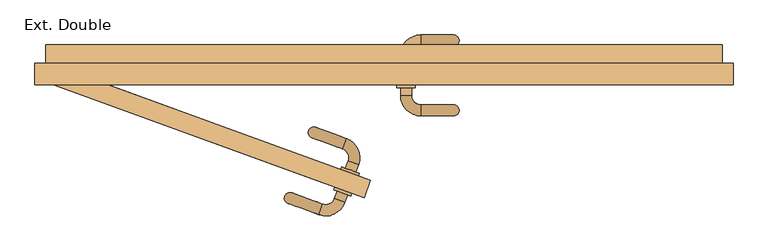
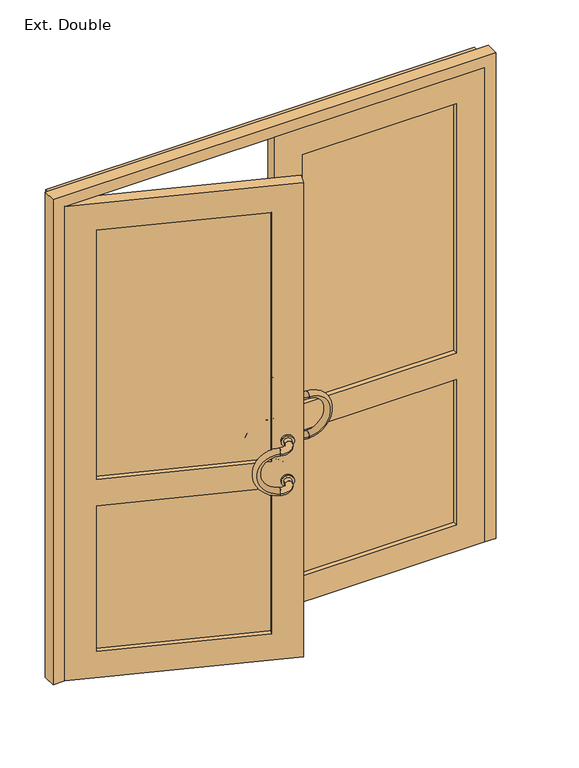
"""IFC4 building model written with IfcOpenShell, lengths in millimetres: door geometry, Ext. Double : Vitrée avec traverse - 1.80 m x 2.15 m."""

from ifc_helpers import new_model, si_unit, point, frame, origin, place, context, project, spatial, polyline, circle_curve, ellipse_curve, trimmed, outline, extrude, faceted_brep, source, transform, mapped, element, save
from ifc_brep_helpers import plane_surface, cylinder_surface, revolved_surface, advanced_brep


def ext_double_4d125d60(model_context):
    return source(origin(), model_context, "Body", "SolidModel", [
        advanced_brep(
        [(35.0, -198.0, 990.0), (65.0, -198.0, 990.0), (90.0, -253.0, 990.0), (90.0, -223.0, 990.0)],
        [
            (0, 1, circle_curve(frame((50.0, -198.0, 990.0), z_axis=(0.0, 1.0, 0.0), x_axis=(1.0, 0.0, 0.0)), 15.0)),
            (1, 0, circle_curve(frame((50.0, -198.0, 990.0), z_axis=(0.0, 1.0, 0.0), x_axis=(1.0, 0.0, 0.0)), 15.0)),
            (2, 3, circle_curve(frame((90.0, -238.0, 990.0), z_axis=(1.0, 0.0, 0.0), x_axis=(0.0, 1.0, 0.0)), 15.0)),
            (3, 2, circle_curve(frame((90.0, -238.0, 990.0), z_axis=(1.0, 0.0, 0.0), x_axis=(0.0, 1.0, 0.0)), 15.0)),
            (3, 1, circle_curve(frame((90.0, -198.0, 990.0), z_axis=(0.0, 0.0, -1.0), x_axis=(-1.0, 0.0, 0.0)), 25.0)),
            (0, 2, circle_curve(frame((90.0, -198.0, 990.0), z_axis=(0.0, 0.0, 1.0), x_axis=(-1.0, 0.0, 0.0)), 55.0)),
        ],
        [
            plane_surface(frame((90.0, -198.0, 990.0), z_axis=(0.0, 1.0, 0.0), x_axis=(-1.0, 0.0, 0.0))),
            plane_surface(frame((90.0, -198.0, 990.0), z_axis=(1.0, 0.0, 0.0), x_axis=(0.0, -1.0, 0.0))),
            revolved_surface(trimmed(ellipse_curve(frame((50.0, -198.0, 990.0), z_axis=(0.0, 1.0, 0.0), x_axis=(1.0, 0.0, 0.0)), 15.0, 15.0), [point((35.0, -198.0, 990.0))], [point((65.0, -198.0, 990.0))], True, "CARTESIAN"), (90.0, -198.0, 990.0), (0.0, 0.0, 1.0)),
            revolved_surface(trimmed(ellipse_curve(frame((50.0, -198.0, 990.0), z_axis=(0.0, 1.0, 0.0), x_axis=(1.0, 0.0, 0.0)), 15.0, 15.0), [point((65.0, -198.0, 990.0))], [point((35.0, -198.0, 990.0))], True, "CARTESIAN"), (90.0, -198.0, 990.0), (0.0, 0.0, 1.0)),
        ],
        [
            (0, [[1, 2]]),
            (1, [[3, 4]]),
            (2, [[5, -1, 6, -4]]),
            (3, [[-6, -2, -5, -3]]),
        ],
    ),
        advanced_brep(
        [(35.0, -198.0, 810.0), (65.0, -198.0, 810.0), (90.0, -253.0, 810.0), (90.0, -223.0, 810.0)],
        [
            (0, 1, circle_curve(frame((50.0, -198.0, 810.0), z_axis=(0.0, 1.0, 0.0), x_axis=(1.0, 0.0, 0.0)), 15.0)),
            (1, 0, circle_curve(frame((50.0, -198.0, 810.0), z_axis=(0.0, 1.0, 0.0), x_axis=(1.0, 0.0, 0.0)), 15.0)),
            (2, 3, circle_curve(frame((90.0, -238.0, 810.0), z_axis=(1.0, 0.0, 0.0), x_axis=(0.0, 1.0, 0.0)), 15.0)),
            (3, 2, circle_curve(frame((90.0, -238.0, 810.0), z_axis=(1.0, 0.0, 0.0), x_axis=(0.0, 1.0, 0.0)), 15.0)),
            (3, 1, circle_curve(frame((90.0, -198.0, 810.0), z_axis=(0.0, 0.0, -1.0), x_axis=(-1.0, 0.0, 0.0)), 25.0)),
            (0, 2, circle_curve(frame((90.0, -198.0, 810.0), z_axis=(0.0, 0.0, 1.0), x_axis=(-1.0, 0.0, 0.0)), 55.0)),
        ],
        [
            plane_surface(frame((90.0, -198.0, 990.0), z_axis=(0.0, 1.0, 0.0), x_axis=(-1.0, 0.0, 0.0))),
            plane_surface(frame((90.0, -198.0, 990.0), z_axis=(1.0, 0.0, 0.0), x_axis=(0.0, -1.0, 0.0))),
            revolved_surface(trimmed(ellipse_curve(frame((50.0, -198.0, 810.0), z_axis=(0.0, 1.0, 0.0), x_axis=(1.0, 0.0, 0.0)), 15.0, 15.0), [point((35.0, -198.0, 810.0))], [point((65.0, -198.0, 810.0))], True, "CARTESIAN"), (90.0, -198.0, 990.0), (0.0, 0.0, 1.0)),
            revolved_surface(trimmed(ellipse_curve(frame((50.0, -198.0, 810.0), z_axis=(0.0, 1.0, 0.0), x_axis=(1.0, 0.0, 0.0)), 15.0, 15.0), [point((65.0, -198.0, 810.0))], [point((35.0, -198.0, 810.0))], True, "CARTESIAN"), (90.0, -198.0, 990.0), (0.0, 0.0, 1.0)),
        ],
        [
            (0, [[1, 2]]),
            (1, [[3, 4]]),
            (2, [[5, -1, 6, -4]]),
            (3, [[-6, -2, -5, -3]]),
        ],
    ),
        advanced_brep(
        [(90.0, -223.0, 990.0), (90.0, -253.0, 990.0), (90.0, -223.0, 810.0), (90.0, -253.0, 810.0)],
        [
            (0, 1, circle_curve(frame((90.0, -238.0, 990.0), z_axis=(-1.0, 0.0, 0.0), x_axis=(0.0, -1.0, 0.0)), 15.0)),
            (1, 0, circle_curve(frame((90.0, -238.0, 990.0), z_axis=(-1.0, 0.0, 0.0), x_axis=(0.0, -1.0, 0.0)), 15.0)),
            (2, 3, circle_curve(frame((90.0, -238.0, 810.0), z_axis=(-1.0, 0.0, 0.0), x_axis=(0.0, -1.0, 0.0)), 15.0)),
            (3, 2, circle_curve(frame((90.0, -238.0, 810.0), z_axis=(-1.0, 0.0, 0.0), x_axis=(0.0, -1.0, 0.0)), 15.0)),
            (3, 1, circle_curve(frame((90.0, -253.0, 900.0), z_axis=(0.0, -1.0, 0.0), x_axis=(0.0, 0.0, 1.0)), 90.0)),
            (0, 2, circle_curve(frame((90.0, -223.0, 900.0), z_axis=(0.0, 1.0, 0.0), x_axis=(0.0, 0.0, 1.0)), 90.0)),
        ],
        [
            plane_surface(frame((90.0, -253.0, 900.0), z_axis=(-1.0, 0.0, 0.0), x_axis=(0.0, 0.0, 1.0))),
            plane_surface(frame((90.0, -253.0, 900.0), z_axis=(-1.0, 0.0, 0.0), x_axis=(0.0, 0.0, -1.0))),
            revolved_surface(trimmed(ellipse_curve(frame((90.0, -238.0, 990.0), z_axis=(-1.0, 0.0, 0.0), x_axis=(0.0, -1.0, 0.0)), 15.0, 15.0), [point((90.0, -223.0, 990.0))], [point((90.0, -253.0, 990.0))], True, "CARTESIAN"), (90.0, -253.0, 900.0), (0.0, 1.0, 0.0)),
            revolved_surface(trimmed(ellipse_curve(frame((90.0, -238.0, 990.0), z_axis=(-1.0, 0.0, 0.0), x_axis=(0.0, -1.0, 0.0)), 15.0, 15.0), [point((90.0, -253.0, 990.0))], [point((90.0, -223.0, 990.0))], True, "CARTESIAN"), (90.0, -253.0, 900.0), (0.0, 1.0, 0.0)),
        ],
        [
            (0, [[1, 2]]),
            (1, [[3, 4]]),
            (2, [[5, -1, 6, -4]]),
            (3, [[-6, -2, -5, -3]]),
        ],
    ),
        advanced_brep(
        [(65.0, -88.0, 990.0), (35.0, -88.0, 990.0), (90.0, -63.0, 990.0), (90.0, -33.0, 990.0)],
        [
            (0, 1, circle_curve(frame((50.0, -88.0, 990.0), z_axis=(0.0, -1.0, 0.0), x_axis=(-1.0, 0.0, 0.0)), 15.0)),
            (1, 0, circle_curve(frame((50.0, -88.0, 990.0), z_axis=(0.0, -1.0, 0.0), x_axis=(-1.0, 0.0, 0.0)), 15.0)),
            (2, 3, circle_curve(frame((90.0, -48.0, 990.0), z_axis=(1.0, 0.0, 0.0), x_axis=(0.0, 1.0, 0.0)), 15.0)),
            (3, 2, circle_curve(frame((90.0, -48.0, 990.0), z_axis=(1.0, 0.0, 0.0), x_axis=(0.0, 1.0, 0.0)), 15.0)),
            (3, 1, circle_curve(frame((90.0, -88.0, 990.0), z_axis=(0.0, 0.0, 1.0), x_axis=(-1.0, 0.0, 0.0)), 55.0)),
            (0, 2, circle_curve(frame((90.0, -88.0, 990.0), z_axis=(0.0, 0.0, -1.0), x_axis=(-1.0, 0.0, 0.0)), 25.0)),
        ],
        [
            plane_surface(frame((90.0, -88.0, 990.0), z_axis=(0.0, -1.0, 0.0), x_axis=(-1.0, 0.0, 0.0))),
            plane_surface(frame((90.0, -88.0, 990.0), z_axis=(1.0, 0.0, 0.0), x_axis=(0.0, 1.0, 0.0))),
            revolved_surface(trimmed(ellipse_curve(frame((50.0, -88.0, 990.0), z_axis=(0.0, -1.0, 0.0), x_axis=(-1.0, 0.0, 0.0)), 15.0, 15.0), [point((65.0, -88.0, 990.0))], [point((35.0, -88.0, 990.0))], True, "CARTESIAN"), (90.0, -88.0, 990.0), (0.0, 0.0, -1.0)),
            revolved_surface(trimmed(ellipse_curve(frame((50.0, -88.0, 990.0), z_axis=(0.0, -1.0, 0.0), x_axis=(-1.0, 0.0, 0.0)), 15.0, 15.0), [point((35.0, -88.0, 990.0))], [point((65.0, -88.0, 990.0))], True, "CARTESIAN"), (90.0, -88.0, 990.0), (0.0, 0.0, -1.0)),
        ],
        [
            (0, [[1, 2]]),
            (1, [[3, 4]]),
            (2, [[5, -1, 6, -4]]),
            (3, [[-6, -2, -5, -3]]),
        ],
    ),
        advanced_brep(
        [(65.0, -88.0, 810.0), (35.0, -88.0, 810.0), (90.0, -63.0, 810.0), (90.0, -33.0, 810.0)],
        [
            (0, 1, circle_curve(frame((50.0, -88.0, 810.0), z_axis=(0.0, -1.0, 0.0), x_axis=(-1.0, 0.0, 0.0)), 15.0)),
            (1, 0, circle_curve(frame((50.0, -88.0, 810.0), z_axis=(0.0, -1.0, 0.0), x_axis=(-1.0, 0.0, 0.0)), 15.0)),
            (2, 3, circle_curve(frame((90.0, -48.0, 810.0), z_axis=(1.0, 0.0, 0.0), x_axis=(0.0, 1.0, 0.0)), 15.0)),
            (3, 2, circle_curve(frame((90.0, -48.0, 810.0), z_axis=(1.0, 0.0, 0.0), x_axis=(0.0, 1.0, 0.0)), 15.0)),
            (3, 1, circle_curve(frame((90.0, -88.0, 810.0), z_axis=(0.0, 0.0, 1.0), x_axis=(-1.0, 0.0, 0.0)), 55.0)),
            (0, 2, circle_curve(frame((90.0, -88.0, 810.0), z_axis=(0.0, 0.0, -1.0), x_axis=(-1.0, 0.0, 0.0)), 25.0)),
        ],
        [
            plane_surface(frame((90.0, -88.0, 990.0), z_axis=(0.0, -1.0, 0.0), x_axis=(-1.0, 0.0, 0.0))),
            plane_surface(frame((90.0, -88.0, 990.0), z_axis=(1.0, 0.0, 0.0), x_axis=(0.0, 1.0, 0.0))),
            revolved_surface(trimmed(ellipse_curve(frame((50.0, -88.0, 810.0), z_axis=(0.0, -1.0, 0.0), x_axis=(-1.0, 0.0, 0.0)), 15.0, 15.0), [point((65.0, -88.0, 810.0))], [point((35.0, -88.0, 810.0))], True, "CARTESIAN"), (90.0, -88.0, 990.0), (0.0, 0.0, -1.0)),
            revolved_surface(trimmed(ellipse_curve(frame((50.0, -88.0, 810.0), z_axis=(0.0, -1.0, 0.0), x_axis=(-1.0, 0.0, 0.0)), 15.0, 15.0), [point((35.0, -88.0, 810.0))], [point((65.0, -88.0, 810.0))], True, "CARTESIAN"), (90.0, -88.0, 990.0), (0.0, 0.0, -1.0)),
        ],
        [
            (0, [[1, 2]]),
            (1, [[3, 4]]),
            (2, [[5, -1, 6, -4]]),
            (3, [[-6, -2, -5, -3]]),
        ],
    ),
        advanced_brep(
        [(90.0, -33.0, 990.0), (90.0, -63.0, 990.0), (90.0, -33.0, 810.0), (90.0, -63.0, 810.0)],
        [
            (0, 1, circle_curve(frame((90.0, -48.0, 990.0), z_axis=(-1.0, 0.0, 0.0), x_axis=(0.0, -1.0, 0.0)), 15.0)),
            (1, 0, circle_curve(frame((90.0, -48.0, 990.0), z_axis=(-1.0, 0.0, 0.0), x_axis=(0.0, -1.0, 0.0)), 15.0)),
            (2, 3, circle_curve(frame((90.0, -48.0, 810.0), z_axis=(-1.0, 0.0, 0.0), x_axis=(0.0, -1.0, 0.0)), 15.0)),
            (3, 2, circle_curve(frame((90.0, -48.0, 810.0), z_axis=(-1.0, 0.0, 0.0), x_axis=(0.0, -1.0, 0.0)), 15.0)),
            (3, 1, circle_curve(frame((90.0, -63.0, 900.0), z_axis=(0.0, -1.0, 0.0), x_axis=(0.0, 0.0, 1.0)), 90.0)),
            (0, 2, circle_curve(frame((90.0, -33.0, 900.0), z_axis=(0.0, 1.0, 0.0), x_axis=(0.0, 0.0, 1.0)), 90.0)),
        ],
        [
            plane_surface(frame((90.0, -48.0, 900.0), z_axis=(-1.0, 0.0, 0.0), x_axis=(0.0, 0.0, 1.0))),
            plane_surface(frame((90.0, -48.0, 900.0), z_axis=(-1.0, 0.0, 0.0), x_axis=(0.0, 0.0, -1.0))),
            revolved_surface(trimmed(ellipse_curve(frame((90.0, -48.0, 990.0), z_axis=(-1.0, 0.0, 0.0), x_axis=(0.0, -1.0, 0.0)), 15.0, 15.0), [point((90.0, -33.0, 990.0))], [point((90.0, -63.0, 990.0))], True, "CARTESIAN"), (90.0, -48.0, 900.0), (0.0, 1.0, 0.0)),
            revolved_surface(trimmed(ellipse_curve(frame((90.0, -48.0, 990.0), z_axis=(-1.0, 0.0, 0.0), x_axis=(0.0, -1.0, 0.0)), 15.0, 15.0), [point((90.0, -63.0, 990.0))], [point((90.0, -33.0, 990.0))], True, "CARTESIAN"), (90.0, -48.0, 900.0), (0.0, 1.0, 0.0)),
        ],
        [
            (0, [[1, 2]]),
            (1, [[3, 4]]),
            (2, [[5, -1, 6, -4]]),
            (3, [[-6, -2, -5, -3]]),
        ],
    ),
        advanced_brep(
        [(25.0, -176.0, 990.0), (75.0, -176.0, 990.0), (65.0, -176.0, 990.0), (35.0, -176.0, 990.0), (25.0, -168.0, 990.0), (75.0, -168.0, 990.0), (35.0, -198.0, 990.0), (65.0, -198.0, 990.0)],
        [
            (0, 1, circle_curve(frame((50.0, -176.0, 990.0), z_axis=(0.0, -1.0, 0.0), x_axis=(1.0, 0.0, 0.0)), 25.0)),
            (1, 0, circle_curve(frame((50.0, -176.0, 990.0), z_axis=(0.0, -1.0, 0.0), x_axis=(1.0, 0.0, 0.0)), 25.0)),
            (2, 3, circle_curve(frame((50.0, -176.0, 990.0), z_axis=(0.0, 1.0, 0.0), x_axis=(1.0, 0.0, 0.0)), 15.0)),
            (3, 2, circle_curve(frame((50.0, -176.0, 990.0), z_axis=(0.0, 1.0, 0.0), x_axis=(1.0, 0.0, 0.0)), 15.0)),
            (4, 5, circle_curve(frame((50.0, -168.0, 990.0), z_axis=(0.0, 1.0, 0.0), x_axis=(1.0, 0.0, 0.0)), 25.0)),
            (5, 4, circle_curve(frame((50.0, -168.0, 990.0), z_axis=(0.0, 1.0, 0.0), x_axis=(1.0, 0.0, 0.0)), 25.0)),
            (0, 4),
            (5, 1),
            (6, 7, circle_curve(frame((50.0, -198.0, 990.0), z_axis=(0.0, -1.0, 0.0), x_axis=(1.0, 0.0, 0.0)), 15.0)),
            (7, 6, circle_curve(frame((50.0, -198.0, 990.0), z_axis=(0.0, -1.0, 0.0), x_axis=(1.0, 0.0, 0.0)), 15.0)),
            (6, 3),
            (2, 7),
        ],
        [
            plane_surface(frame((75.0, -176.0, 990.0), z_axis=(0.0, -1.0, 0.0), x_axis=(0.0, 0.0, 1.0))),
            plane_surface(frame((75.0, -168.0, 990.0), z_axis=(0.0, 1.0, 0.0), x_axis=(0.0, 0.0, -1.0))),
            cylinder_surface(frame((50.0, -168.0, 990.0), z_axis=(0.0, -1.0, 0.0), x_axis=(1.0, 0.0, 0.0)), 25.0),
            plane_surface(frame((65.0, -198.0, 990.0), z_axis=(0.0, -1.0, 0.0), x_axis=(0.0, 0.0, 1.0))),
            cylinder_surface(frame((50.0, -168.0, 990.0), z_axis=(0.0, -1.0, 0.0), x_axis=(1.0, 0.0, 0.0)), 15.0),
        ],
        [
            (0, [[1, 2], [3, 4]]),
            (1, [[5, 6]]),
            (2, [[-1, 7, -6, 8]]),
            (2, [[-2, -8, -5, -7]]),
            (3, [[9, 10]]),
            (4, [[-9, 11, -3, 12]]),
            (4, [[-10, -12, -4, -11]]),
        ],
    ),
        advanced_brep(
        [(25.0, -176.0, 810.0), (75.0, -176.0, 810.0), (65.0, -176.0, 810.0), (35.0, -176.0, 810.0), (25.0, -168.0, 810.0), (75.0, -168.0, 810.0), (35.0, -198.0, 810.0), (65.0, -198.0, 810.0)],
        [
            (0, 1, circle_curve(frame((50.0, -176.0, 810.0), z_axis=(0.0, -1.0, 0.0), x_axis=(1.0, 0.0, 0.0)), 25.0)),
            (1, 0, circle_curve(frame((50.0, -176.0, 810.0), z_axis=(0.0, -1.0, 0.0), x_axis=(1.0, 0.0, 0.0)), 25.0)),
            (2, 3, circle_curve(frame((50.0, -176.0, 810.0), z_axis=(0.0, 1.0, 0.0), x_axis=(1.0, 0.0, 0.0)), 15.0)),
            (3, 2, circle_curve(frame((50.0, -176.0, 810.0), z_axis=(0.0, 1.0, 0.0), x_axis=(1.0, 0.0, 0.0)), 15.0)),
            (4, 5, circle_curve(frame((50.0, -168.0, 810.0), z_axis=(0.0, 1.0, 0.0), x_axis=(1.0, 0.0, 0.0)), 25.0)),
            (5, 4, circle_curve(frame((50.0, -168.0, 810.0), z_axis=(0.0, 1.0, 0.0), x_axis=(1.0, 0.0, 0.0)), 25.0)),
            (0, 4),
            (5, 1),
            (6, 7, circle_curve(frame((50.0, -198.0, 810.0), z_axis=(0.0, -1.0, 0.0), x_axis=(1.0, 0.0, 0.0)), 15.0)),
            (7, 6, circle_curve(frame((50.0, -198.0, 810.0), z_axis=(0.0, -1.0, 0.0), x_axis=(1.0, 0.0, 0.0)), 15.0)),
            (6, 3),
            (2, 7),
        ],
        [
            plane_surface(frame((75.0, -176.0, 990.0), z_axis=(0.0, -1.0, 0.0), x_axis=(0.0, 0.0, 1.0))),
            plane_surface(frame((75.0, -168.0, 990.0), z_axis=(0.0, 1.0, 0.0), x_axis=(0.0, 0.0, -1.0))),
            cylinder_surface(frame((50.0, -168.0, 810.0), z_axis=(0.0, -1.0, 0.0), x_axis=(1.0, 0.0, 0.0)), 25.0),
            plane_surface(frame((65.0, -198.0, 990.0), z_axis=(0.0, -1.0, 0.0), x_axis=(0.0, 0.0, 1.0))),
            cylinder_surface(frame((50.0, -168.0, 810.0), z_axis=(0.0, -1.0, 0.0), x_axis=(1.0, 0.0, 0.0)), 15.0),
        ],
        [
            (0, [[1, 2], [3, 4]]),
            (1, [[5, 6]]),
            (2, [[-1, 7, -6, 8]]),
            (2, [[-2, -8, -5, -7]]),
            (3, [[9, 10]]),
            (4, [[-9, 11, -3, 12]]),
            (4, [[-10, -12, -4, -11]]),
        ],
    ),
        advanced_brep(
        [(25.0, -118.0, 810.0), (75.0, -118.0, 810.0), (25.0, -110.0, 810.0), (75.0, -110.0, 810.0), (35.0, -110.0, 810.0), (65.0, -110.0, 810.0), (35.0, -88.0, 810.0), (65.0, -88.0, 810.0)],
        [
            (0, 1, circle_curve(frame((50.0, -118.0, 810.0), z_axis=(0.0, -1.0, 0.0), x_axis=(1.0, 0.0, 0.0)), 25.0)),
            (1, 0, circle_curve(frame((50.0, -118.0, 810.0), z_axis=(0.0, -1.0, 0.0), x_axis=(1.0, 0.0, 0.0)), 25.0)),
            (2, 3, circle_curve(frame((50.0, -110.0, 810.0), z_axis=(0.0, 1.0, 0.0), x_axis=(1.0, 0.0, 0.0)), 25.0)),
            (3, 2, circle_curve(frame((50.0, -110.0, 810.0), z_axis=(0.0, 1.0, 0.0), x_axis=(1.0, 0.0, 0.0)), 25.0)),
            (4, 5, circle_curve(frame((50.0, -110.0, 810.0), z_axis=(0.0, -1.0, 0.0), x_axis=(1.0, 0.0, 0.0)), 15.0)),
            (5, 4, circle_curve(frame((50.0, -110.0, 810.0), z_axis=(0.0, -1.0, 0.0), x_axis=(1.0, 0.0, 0.0)), 15.0)),
            (0, 2),
            (3, 1),
            (6, 7, circle_curve(frame((50.0, -88.0, 810.0), z_axis=(0.0, 1.0, 0.0), x_axis=(1.0, 0.0, 0.0)), 15.0)),
            (7, 6, circle_curve(frame((50.0, -88.0, 810.0), z_axis=(0.0, 1.0, 0.0), x_axis=(1.0, 0.0, 0.0)), 15.0)),
            (7, 5),
            (4, 6),
        ],
        [
            plane_surface(frame((75.0, -118.0, 990.0), z_axis=(0.0, -1.0, 0.0), x_axis=(0.0, 0.0, 1.0))),
            plane_surface(frame((75.0, -110.0, 990.0), z_axis=(0.0, 1.0, 0.0), x_axis=(0.0, 0.0, -1.0))),
            cylinder_surface(frame((50.0, -118.0, 810.0), z_axis=(0.0, -1.0, 0.0), x_axis=(1.0, 0.0, 0.0)), 25.0),
            plane_surface(frame((65.0, -88.0, 990.0), z_axis=(0.0, 1.0, 0.0), x_axis=(0.0, 0.0, -1.0))),
            cylinder_surface(frame((50.0, -118.0, 810.0), z_axis=(0.0, -1.0, 0.0), x_axis=(1.0, 0.0, 0.0)), 15.0),
        ],
        [
            (0, [[1, 2]]),
            (1, [[3, 4], [5, 6]]),
            (2, [[-1, 7, -4, 8]]),
            (2, [[-2, -8, -3, -7]]),
            (3, [[9, 10]]),
            (4, [[-10, 11, -5, 12]]),
            (4, [[-9, -12, -6, -11]]),
        ],
    ),
        advanced_brep(
        [(25.0, -118.0, 990.0), (75.0, -118.0, 990.0), (25.0, -110.0, 990.0), (75.0, -110.0, 990.0), (35.0, -110.0, 990.0), (65.0, -110.0, 990.0), (35.0, -88.0, 990.0), (65.0, -88.0, 990.0)],
        [
            (0, 1, circle_curve(frame((50.0, -118.0, 990.0), z_axis=(0.0, -1.0, 0.0), x_axis=(1.0, 0.0, 0.0)), 25.0)),
            (1, 0, circle_curve(frame((50.0, -118.0, 990.0), z_axis=(0.0, -1.0, 0.0), x_axis=(1.0, 0.0, 0.0)), 25.0)),
            (2, 3, circle_curve(frame((50.0, -110.0, 990.0), z_axis=(0.0, 1.0, 0.0), x_axis=(1.0, 0.0, 0.0)), 25.0)),
            (3, 2, circle_curve(frame((50.0, -110.0, 990.0), z_axis=(0.0, 1.0, 0.0), x_axis=(1.0, 0.0, 0.0)), 25.0)),
            (4, 5, circle_curve(frame((50.0, -110.0, 990.0), z_axis=(0.0, -1.0, 0.0), x_axis=(1.0, 0.0, 0.0)), 15.0)),
            (5, 4, circle_curve(frame((50.0, -110.0, 990.0), z_axis=(0.0, -1.0, 0.0), x_axis=(1.0, 0.0, 0.0)), 15.0)),
            (0, 2),
            (3, 1),
            (6, 7, circle_curve(frame((50.0, -88.0, 990.0), z_axis=(0.0, 1.0, 0.0), x_axis=(1.0, 0.0, 0.0)), 15.0)),
            (7, 6, circle_curve(frame((50.0, -88.0, 990.0), z_axis=(0.0, 1.0, 0.0), x_axis=(1.0, 0.0, 0.0)), 15.0)),
            (7, 5),
            (4, 6),
        ],
        [
            plane_surface(frame((75.0, -118.0, 990.0), z_axis=(0.0, -1.0, 0.0), x_axis=(0.0, 0.0, 1.0))),
            plane_surface(frame((75.0, -110.0, 990.0), z_axis=(0.0, 1.0, 0.0), x_axis=(0.0, 0.0, -1.0))),
            cylinder_surface(frame((50.0, -110.0, 990.0), z_axis=(0.0, -1.0, 0.0), x_axis=(1.0, 0.0, 0.0)), 25.0),
            plane_surface(frame((65.0, -88.0, 990.0), z_axis=(0.0, 1.0, 0.0), x_axis=(0.0, 0.0, -1.0))),
            cylinder_surface(frame((50.0, -88.0, 990.0), z_axis=(0.0, -1.0, 0.0), x_axis=(1.0, 0.0, 0.0)), 15.0),
        ],
        [
            (0, [[1, 2]]),
            (1, [[3, 4], [5, 6]]),
            (2, [[-1, 7, -4, 8]]),
            (2, [[-2, -8, -3, -7]]),
            (3, [[9, 10]]),
            (4, [[-10, 11, -5, 12]]),
            (4, [[-9, -12, -6, -11]]),
        ],
    ),
        extrude(outline(polyline([(110.0, -138.0), (770.0, -138.0), (770.0, -148.0), (110.0, -148.0), (110.0, -138.0)])), frame((0.0, 0.0, 900.0), z_axis=(0.0, 0.0, 1.0), x_axis=(1.0, 0.0, 0.0)), (0.0, 0.0, 1.0), 1130.0),
        extrude(outline(polyline([(110.0, -138.0), (770.0, -138.0), (770.0, -148.0), (110.0, -148.0), (110.0, -138.0)])), frame((0.0, 0.0, 120.0), z_axis=(0.0, 0.0, 1.0), x_axis=(1.0, 0.0, 0.0)), (0.0, 0.0, 1.0), 660.0),
        extrude(outline(polyline([(2150.0, -10.0), (0.0, -10.0), (0.0, 890.0), (2150.0, 890.0), (2150.0, -10.0)]), holes=[polyline([(2030.0, 770.0), (900.0, 770.0), (900.0, 110.0), (2030.0, 110.0), (2030.0, 770.0)]), polyline([(780.0, 110.0), (780.0, 770.0), (120.0, 770.0), (120.0, 110.0), (780.0, 110.0)])]), frame((0.0, -168.0, 0.0), z_axis=(0.0, 1.0, 0.0), x_axis=(0.0, 0.0, 1.0)), (0.0, 0.0, 1.0), 50.0),
        advanced_brep(
        [(-116.8234135, -488.6180012, 990.0), (-145.0141922, -478.3573969, 990.0), (-187.3176156, -521.4899874, 990.0), (-177.0570113, -493.2992088, 990.0)],
        [
            (0, 1, circle_curve(frame((-130.9188028, -483.487699, 990.0), z_axis=(0.34202014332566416, 0.9396926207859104, 0.0), x_axis=(-0.9396926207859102, 0.3420201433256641, 0.0)), 15.0)),
            (1, 0, circle_curve(frame((-130.9188028, -483.487699, 990.0), z_axis=(0.34202014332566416, 0.9396926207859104, 0.0), x_axis=(-0.9396926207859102, 0.3420201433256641, 0.0)), 15.0)),
            (2, 3, circle_curve(frame((-182.1873134, -507.3945981, 990.0), z_axis=(-0.9396926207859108, 0.3420201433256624, 0.0), x_axis=(0.34202014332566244, 0.939692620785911, 0.0)), 15.0)),
            (3, 2, circle_curve(frame((-182.1873134, -507.3945981, 990.0), z_axis=(-0.9396926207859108, 0.3420201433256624, 0.0), x_axis=(0.34202014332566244, 0.939692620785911, 0.0)), 15.0)),
            (2, 0, circle_curve(frame((-168.5065077, -469.8068933, 990.0), z_axis=(0.0, 0.0, 1.0), x_axis=(0.939692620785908, -0.34202014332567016, 0.0)), 55.0)),
            (1, 3, circle_curve(frame((-168.5065077, -469.8068933, 990.0), z_axis=(0.0, 0.0, -1.0), x_axis=(0.939692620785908, -0.34202014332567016, 0.0)), 25.0)),
        ],
        [
            plane_surface(frame((-168.5065077, -469.8068933, 990.0), z_axis=(0.34202014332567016, 0.939692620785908, 0.0), x_axis=(0.939692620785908, -0.34202014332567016, 0.0))),
            plane_surface(frame((-168.5065077, -469.8068933, 990.0), z_axis=(-0.9396926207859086, 0.3420201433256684, 0.0), x_axis=(-0.3420201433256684, -0.9396926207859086, 0.0))),
            revolved_surface(trimmed(ellipse_curve(frame((-130.9188028, -483.487699, 990.0), z_axis=(-0.34202014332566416, -0.9396926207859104, 0.0), x_axis=(-0.9396926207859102, 0.3420201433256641, 0.0)), 15.0, 15.0), [point((-116.8234135, -488.6180012, 990.0))], [point((-145.0141922, -478.3573969, 990.0))], True, "CARTESIAN"), (-168.5065077, -469.8068933, 990.0), (0.0, 0.0, 1.0000000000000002)),
            revolved_surface(trimmed(ellipse_curve(frame((-130.9188028, -483.487699, 990.0), z_axis=(-0.34202014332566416, -0.9396926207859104, 0.0), x_axis=(-0.9396926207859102, 0.3420201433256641, 0.0)), 15.0, 15.0), [point((-145.0141922, -478.3573969, 990.0))], [point((-116.8234135, -488.6180012, 990.0))], True, "CARTESIAN"), (-168.5065077, -469.8068933, 990.0), (0.0, 0.0, 1.0000000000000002)),
        ],
        [
            (0, [[1, 2]]),
            (1, [[3, 4]]),
            (2, [[-3, 5, -2, 6]]),
            (3, [[-4, -6, -1, -5]]),
        ],
    ),
        advanced_brep(
        [(-116.8234135, -488.6180012, 810.0), (-145.0141922, -478.3573969, 810.0), (-187.3176156, -521.4899874, 810.0), (-177.0570113, -493.2992088, 810.0)],
        [
            (0, 1, circle_curve(frame((-130.9188028, -483.487699, 810.0), z_axis=(0.34202014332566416, 0.9396926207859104, 0.0), x_axis=(-0.9396926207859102, 0.3420201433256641, 0.0)), 15.0)),
            (1, 0, circle_curve(frame((-130.9188028, -483.487699, 810.0), z_axis=(0.34202014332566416, 0.9396926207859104, 0.0), x_axis=(-0.9396926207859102, 0.3420201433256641, 0.0)), 15.0)),
            (2, 3, circle_curve(frame((-182.1873134, -507.3945981, 810.0), z_axis=(-0.9396926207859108, 0.3420201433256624, 0.0), x_axis=(0.34202014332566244, 0.939692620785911, 0.0)), 15.0)),
            (3, 2, circle_curve(frame((-182.1873134, -507.3945981, 810.0), z_axis=(-0.9396926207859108, 0.3420201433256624, 0.0), x_axis=(0.34202014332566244, 0.939692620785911, 0.0)), 15.0)),
            (2, 0, circle_curve(frame((-168.5065077, -469.8068933, 810.0), z_axis=(0.0, 0.0, 1.0), x_axis=(0.939692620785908, -0.34202014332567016, 0.0)), 55.0)),
            (1, 3, circle_curve(frame((-168.5065077, -469.8068933, 810.0), z_axis=(0.0, 0.0, -1.0), x_axis=(0.939692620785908, -0.34202014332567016, 0.0)), 25.0)),
        ],
        [
            plane_surface(frame((-168.5065077, -469.8068933, 990.0), z_axis=(0.34202014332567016, 0.939692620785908, 0.0), x_axis=(0.939692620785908, -0.34202014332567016, 0.0))),
            plane_surface(frame((-168.5065077, -469.8068933, 990.0), z_axis=(-0.9396926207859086, 0.3420201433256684, 0.0), x_axis=(-0.3420201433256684, -0.9396926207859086, 0.0))),
            revolved_surface(trimmed(ellipse_curve(frame((-130.9188028, -483.487699, 810.0), z_axis=(-0.34202014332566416, -0.9396926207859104, 0.0), x_axis=(-0.9396926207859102, 0.3420201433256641, 0.0)), 15.0, 15.0), [point((-116.8234135, -488.6180012, 810.0))], [point((-145.0141922, -478.3573969, 810.0))], True, "CARTESIAN"), (-168.5065077, -469.8068933, 990.0), (0.0, 0.0, 1.0000000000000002)),
            revolved_surface(trimmed(ellipse_curve(frame((-130.9188028, -483.487699, 810.0), z_axis=(-0.34202014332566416, -0.9396926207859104, 0.0), x_axis=(-0.9396926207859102, 0.3420201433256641, 0.0)), 15.0, 15.0), [point((-145.0141922, -478.3573969, 810.0))], [point((-116.8234135, -488.6180012, 810.0))], True, "CARTESIAN"), (-168.5065077, -469.8068933, 990.0), (0.0, 0.0, 1.0000000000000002)),
        ],
        [
            (0, [[1, 2]]),
            (1, [[3, 4]]),
            (2, [[-3, 5, -2, 6]]),
            (3, [[-4, -6, -1, -5]]),
        ],
    ),
        advanced_brep(
        [(-177.0570113, -493.2992088, 990.0), (-187.3176156, -521.4899874, 990.0), (-177.0570113, -493.2992088, 810.0), (-187.3176156, -521.4899874, 810.0)],
        [
            (0, 1, circle_curve(frame((-182.1873134, -507.3945981, 990.0), z_axis=(0.9396926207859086, -0.34202014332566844, 0.0), x_axis=(-0.3420201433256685, -0.9396926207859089, 0.0)), 15.0)),
            (1, 0, circle_curve(frame((-182.1873134, -507.3945981, 990.0), z_axis=(0.9396926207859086, -0.34202014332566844, 0.0), x_axis=(-0.3420201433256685, -0.9396926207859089, 0.0)), 15.0)),
            (2, 3, circle_curve(frame((-182.1873134, -507.3945981, 810.0), z_axis=(0.9396926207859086, -0.34202014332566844, 0.0), x_axis=(-0.3420201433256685, -0.9396926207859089, 0.0)), 15.0)),
            (3, 2, circle_curve(frame((-182.1873134, -507.3945981, 810.0), z_axis=(0.9396926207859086, -0.34202014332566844, 0.0), x_axis=(-0.3420201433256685, -0.9396926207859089, 0.0)), 15.0)),
            (2, 0, circle_curve(frame((-177.0570113, -493.2992088, 900.0), z_axis=(0.34202014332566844, 0.9396926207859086, 0.0), x_axis=(0.0, 0.0, 1.0000000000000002)), 90.0)),
            (1, 3, circle_curve(frame((-187.3176156, -521.4899874, 900.0), z_axis=(-0.34202014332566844, -0.9396926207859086, 0.0), x_axis=(0.0, 0.0, 1.0000000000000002)), 90.0)),
        ],
        [
            plane_surface(frame((-187.3176156, -521.4899874, 900.0), z_axis=(0.9396926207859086, -0.34202014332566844, 0.0), x_axis=(0.0, 0.0, 1.0))),
            plane_surface(frame((-187.3176156, -521.4899874, 900.0), z_axis=(0.9396926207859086, -0.34202014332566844, 0.0), x_axis=(0.0, 0.0, -1.0))),
            revolved_surface(trimmed(ellipse_curve(frame((-182.1873134, -507.3945981, 990.0), z_axis=(-0.9396926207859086, 0.34202014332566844, 0.0), x_axis=(-0.3420201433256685, -0.9396926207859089, 0.0)), 15.0, 15.0), [point((-177.0570113, -493.2992088, 990.0))], [point((-187.3176156, -521.4899874, 990.0))], True, "CARTESIAN"), (-187.3176156, -521.4899874, 900.0), (0.3420201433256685, 0.9396926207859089, 0.0)),
            revolved_surface(trimmed(ellipse_curve(frame((-182.1873134, -507.3945981, 990.0), z_axis=(-0.9396926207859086, 0.34202014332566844, 0.0), x_axis=(-0.3420201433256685, -0.9396926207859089, 0.0)), 15.0, 15.0), [point((-187.3176156, -521.4899874, 990.0))], [point((-177.0570113, -493.2992088, 990.0))], True, "CARTESIAN"), (-187.3176156, -521.4899874, 900.0), (0.3420201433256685, 0.9396926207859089, 0.0)),
        ],
        [
            (0, [[1, 2]]),
            (1, [[3, 4]]),
            (2, [[-3, 5, -2, 6]]),
            (3, [[-4, -6, -1, -5]]),
        ],
    ),
        advanced_brep(
        [(-107.3919764, -374.9912086, 990.0), (-79.2011978, -385.2518129, 990.0), (-122.3337883, -342.9483895, 990.0), (-112.073184, -314.7576109, 990.0)],
        [
            (0, 1, circle_curve(frame((-93.2965871, -380.1215107, 990.0), z_axis=(-0.3420201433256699, -0.9396926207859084, 0.0), x_axis=(0.9396926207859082, -0.3420201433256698, 0.0)), 15.0)),
            (1, 0, circle_curve(frame((-93.2965871, -380.1215107, 990.0), z_axis=(-0.3420201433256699, -0.9396926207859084, 0.0), x_axis=(0.9396926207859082, -0.3420201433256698, 0.0)), 15.0)),
            (2, 3, circle_curve(frame((-117.2034862, -328.8530002, 990.0), z_axis=(-0.9396926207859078, 0.34202014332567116, 0.0), x_axis=(0.3420201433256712, 0.939692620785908, 0.0)), 15.0)),
            (3, 2, circle_curve(frame((-117.2034862, -328.8530002, 990.0), z_axis=(-0.9396926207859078, 0.34202014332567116, 0.0), x_axis=(0.3420201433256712, 0.939692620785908, 0.0)), 15.0)),
            (2, 0, circle_curve(frame((-130.8842919, -366.440705, 990.0), z_axis=(0.0, 0.0, -1.0), x_axis=(0.9396926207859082, -0.34202014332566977, 0.0)), 25.0)),
            (1, 3, circle_curve(frame((-130.8842919, -366.440705, 990.0), z_axis=(0.0, 0.0, 1.0), x_axis=(0.9396926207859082, -0.34202014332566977, 0.0)), 55.0)),
        ],
        [
            plane_surface(frame((-130.8842919, -366.440705, 990.0), z_axis=(-0.34202014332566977, -0.9396926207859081, 0.0), x_axis=(0.9396926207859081, -0.34202014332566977, 0.0))),
            plane_surface(frame((-130.8842919, -366.440705, 990.0), z_axis=(-0.9396926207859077, 0.34202014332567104, 0.0), x_axis=(0.34202014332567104, 0.9396926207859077, 0.0))),
            revolved_surface(trimmed(ellipse_curve(frame((-93.2965871, -380.1215107, 990.0), z_axis=(0.3420201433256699, 0.9396926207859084, 0.0), x_axis=(0.9396926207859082, -0.3420201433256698, 0.0)), 15.0, 15.0), [point((-107.3919764, -374.9912086, 990.0))], [point((-79.2011978, -385.2518129, 990.0))], True, "CARTESIAN"), (-130.8842919, -366.440705, 990.0), (0.0, 0.0, -1.0000000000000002)),
            revolved_surface(trimmed(ellipse_curve(frame((-93.2965871, -380.1215107, 990.0), z_axis=(0.3420201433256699, 0.9396926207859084, 0.0), x_axis=(0.9396926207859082, -0.3420201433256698, 0.0)), 15.0, 15.0), [point((-79.2011978, -385.2518129, 990.0))], [point((-107.3919764, -374.9912086, 990.0))], True, "CARTESIAN"), (-130.8842919, -366.440705, 990.0), (0.0, 0.0, -1.0000000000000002)),
        ],
        [
            (0, [[1, 2]]),
            (1, [[3, 4]]),
            (2, [[-3, 5, -2, 6]]),
            (3, [[-4, -6, -1, -5]]),
        ],
    ),
        advanced_brep(
        [(-107.3919764, -374.9912086, 810.0), (-79.2011978, -385.2518129, 810.0), (-122.3337883, -342.9483895, 810.0), (-112.073184, -314.7576109, 810.0)],
        [
            (0, 1, circle_curve(frame((-93.2965871, -380.1215107, 810.0), z_axis=(-0.3420201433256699, -0.9396926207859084, 0.0), x_axis=(0.9396926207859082, -0.3420201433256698, 0.0)), 15.0)),
            (1, 0, circle_curve(frame((-93.2965871, -380.1215107, 810.0), z_axis=(-0.3420201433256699, -0.9396926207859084, 0.0), x_axis=(0.9396926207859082, -0.3420201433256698, 0.0)), 15.0)),
            (2, 3, circle_curve(frame((-117.2034862, -328.8530002, 810.0), z_axis=(-0.9396926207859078, 0.34202014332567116, 0.0), x_axis=(0.3420201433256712, 0.939692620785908, 0.0)), 15.0)),
            (3, 2, circle_curve(frame((-117.2034862, -328.8530002, 810.0), z_axis=(-0.9396926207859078, 0.34202014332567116, 0.0), x_axis=(0.3420201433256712, 0.939692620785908, 0.0)), 15.0)),
            (2, 0, circle_curve(frame((-130.8842919, -366.440705, 810.0), z_axis=(0.0, 0.0, -1.0), x_axis=(0.9396926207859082, -0.34202014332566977, 0.0)), 25.0)),
            (1, 3, circle_curve(frame((-130.8842919, -366.440705, 810.0), z_axis=(0.0, 0.0, 1.0), x_axis=(0.9396926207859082, -0.34202014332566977, 0.0)), 55.0)),
        ],
        [
            plane_surface(frame((-130.8842919, -366.440705, 990.0), z_axis=(-0.34202014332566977, -0.9396926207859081, 0.0), x_axis=(0.9396926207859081, -0.34202014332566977, 0.0))),
            plane_surface(frame((-130.8842919, -366.440705, 990.0), z_axis=(-0.9396926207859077, 0.34202014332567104, 0.0), x_axis=(0.34202014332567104, 0.9396926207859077, 0.0))),
            revolved_surface(trimmed(ellipse_curve(frame((-93.2965871, -380.1215107, 810.0), z_axis=(0.3420201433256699, 0.9396926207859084, 0.0), x_axis=(0.9396926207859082, -0.3420201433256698, 0.0)), 15.0, 15.0), [point((-107.3919764, -374.9912086, 810.0))], [point((-79.2011978, -385.2518129, 810.0))], True, "CARTESIAN"), (-130.8842919, -366.440705, 990.0), (0.0, 0.0, -1.0000000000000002)),
            revolved_surface(trimmed(ellipse_curve(frame((-93.2965871, -380.1215107, 810.0), z_axis=(0.3420201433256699, 0.9396926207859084, 0.0), x_axis=(0.9396926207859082, -0.3420201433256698, 0.0)), 15.0, 15.0), [point((-79.2011978, -385.2518129, 810.0))], [point((-107.3919764, -374.9912086, 810.0))], True, "CARTESIAN"), (-130.8842919, -366.440705, 990.0), (0.0, 0.0, -1.0000000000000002)),
        ],
        [
            (0, [[1, 2]]),
            (1, [[3, 4]]),
            (2, [[-3, 5, -2, 6]]),
            (3, [[-4, -6, -1, -5]]),
        ],
    ),
        advanced_brep(
        [(-112.073184, -314.7576109, 990.0), (-122.3337883, -342.9483895, 990.0), (-112.073184, -314.7576109, 810.0), (-122.3337883, -342.9483895, 810.0)],
        [
            (0, 1, circle_curve(frame((-117.2034862, -328.8530002, 990.0), z_axis=(0.9396926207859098, -0.3420201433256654, 0.0), x_axis=(-0.34202014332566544, -0.93969262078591, 0.0)), 15.0)),
            (1, 0, circle_curve(frame((-117.2034862, -328.8530002, 990.0), z_axis=(0.9396926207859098, -0.3420201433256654, 0.0), x_axis=(-0.34202014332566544, -0.93969262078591, 0.0)), 15.0)),
            (2, 3, circle_curve(frame((-117.2034862, -328.8530002, 810.0), z_axis=(0.9396926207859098, -0.3420201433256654, 0.0), x_axis=(-0.34202014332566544, -0.93969262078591, 0.0)), 15.0)),
            (3, 2, circle_curve(frame((-117.2034862, -328.8530002, 810.0), z_axis=(0.9396926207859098, -0.3420201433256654, 0.0), x_axis=(-0.34202014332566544, -0.93969262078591, 0.0)), 15.0)),
            (2, 0, circle_curve(frame((-112.073184, -314.7576109, 900.0), z_axis=(0.34202014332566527, 0.9396926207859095, 0.0), x_axis=(0.0, 0.0, 1.0000000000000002)), 90.0)),
            (1, 3, circle_curve(frame((-122.3337883, -342.9483895, 900.0), z_axis=(-0.34202014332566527, -0.9396926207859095, 0.0), x_axis=(0.0, 0.0, 1.0000000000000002)), 90.0)),
        ],
        [
            plane_surface(frame((-117.2034862, -328.8530002, 900.0), z_axis=(0.9396926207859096, -0.3420201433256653, 0.0), x_axis=(0.0, 0.0, 1.0))),
            plane_surface(frame((-117.2034862, -328.8530002, 900.0), z_axis=(0.9396926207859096, -0.3420201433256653, 0.0), x_axis=(0.0, 0.0, -1.0))),
            revolved_surface(trimmed(ellipse_curve(frame((-117.2034862, -328.8530002, 990.0), z_axis=(-0.9396926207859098, 0.3420201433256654, 0.0), x_axis=(-0.34202014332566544, -0.93969262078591, 0.0)), 15.0, 15.0), [point((-112.073184, -314.7576109, 990.0))], [point((-122.3337883, -342.9483895, 990.0))], True, "CARTESIAN"), (-117.2034862, -328.8530002, 900.0), (0.34202014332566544, 0.93969262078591, 0.0)),
            revolved_surface(trimmed(ellipse_curve(frame((-117.2034862, -328.8530002, 990.0), z_axis=(-0.9396926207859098, 0.3420201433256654, 0.0), x_axis=(-0.34202014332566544, -0.93969262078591, 0.0)), 15.0, 15.0), [point((-122.3337883, -342.9483895, 990.0))], [point((-112.073184, -314.7576109, 990.0))], True, "CARTESIAN"), (-117.2034862, -328.8530002, 900.0), (0.34202014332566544, 0.93969262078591, 0.0)),
        ],
        [
            (0, [[1, 2]]),
            (1, [[3, 4]]),
            (2, [[-3, 5, -2, 6]]),
            (3, [[-4, -6, -1, -5]]),
        ],
    ),
        advanced_brep(
        [(-99.9020442, -471.3649649, 990.0), (-146.8866752, -454.2639578, 990.0), (-137.489749, -457.6841592, 990.0), (-109.2989704, -467.9447635, 990.0), (-97.165883, -463.847424, 990.0), (-144.1505141, -446.7464168, 990.0), (-116.8234135, -488.6180012, 990.0), (-145.0141922, -478.3573969, 990.0)],
        [
            (0, 1, circle_curve(frame((-123.3943597, -462.8144614, 990.0), z_axis=(-0.34202014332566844, -0.9396926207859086, 0.0), x_axis=(-0.9396926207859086, 0.34202014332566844, 0.0)), 25.0)),
            (1, 0, circle_curve(frame((-123.3943597, -462.8144614, 990.0), z_axis=(-0.34202014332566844, -0.9396926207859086, 0.0), x_axis=(-0.9396926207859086, 0.34202014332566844, 0.0)), 25.0)),
            (2, 3, circle_curve(frame((-123.3943597, -462.8144614, 990.0), z_axis=(0.34202014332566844, 0.9396926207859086, 0.0), x_axis=(-0.9396926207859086, 0.34202014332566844, 0.0)), 15.0)),
            (3, 2, circle_curve(frame((-123.3943597, -462.8144614, 990.0), z_axis=(0.34202014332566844, 0.9396926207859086, 0.0), x_axis=(-0.9396926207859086, 0.34202014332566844, 0.0)), 15.0)),
            (4, 5, circle_curve(frame((-120.6581985, -455.2969204, 990.0), z_axis=(0.34202014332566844, 0.9396926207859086, 0.0), x_axis=(-0.9396926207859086, 0.34202014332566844, 0.0)), 25.0)),
            (5, 4, circle_curve(frame((-120.6581985, -455.2969204, 990.0), z_axis=(0.34202014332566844, 0.9396926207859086, 0.0), x_axis=(-0.9396926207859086, 0.34202014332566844, 0.0)), 25.0)),
            (1, 5),
            (4, 0),
            (6, 7, circle_curve(frame((-130.9188028, -483.487699, 990.0), z_axis=(-0.34202014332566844, -0.9396926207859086, 0.0), x_axis=(-0.9396926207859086, 0.34202014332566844, 0.0)), 15.0)),
            (7, 6, circle_curve(frame((-130.9188028, -483.487699, 990.0), z_axis=(-0.34202014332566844, -0.9396926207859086, 0.0), x_axis=(-0.9396926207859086, 0.34202014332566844, 0.0)), 15.0)),
            (7, 2),
            (3, 6),
        ],
        [
            plane_surface(frame((-146.8866752, -454.2639578, 990.0), z_axis=(-0.34202014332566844, -0.9396926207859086, 0.0), x_axis=(0.0, 0.0, 1.0))),
            plane_surface(frame((-144.1505141, -446.7464168, 990.0), z_axis=(0.34202014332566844, 0.9396926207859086, 0.0), x_axis=(0.0, 0.0, -1.0))),
            cylinder_surface(frame((-120.6581985, -455.2969204, 990.0), z_axis=(-0.3420201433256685, -0.9396926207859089, 0.0), x_axis=(-0.9396926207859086, 0.34202014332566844, 0.0)), 25.0),
            plane_surface(frame((-145.0141922, -478.3573969, 990.0), z_axis=(-0.34202014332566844, -0.9396926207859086, 0.0), x_axis=(0.0, 0.0, 1.0))),
            cylinder_surface(frame((-120.6581985, -455.2969204, 990.0), z_axis=(-0.3420201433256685, -0.9396926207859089, 0.0), x_axis=(-0.9396926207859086, 0.34202014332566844, 0.0)), 15.0),
        ],
        [
            (0, [[1, 2], [3, 4]]),
            (1, [[5, 6]]),
            (2, [[7, -5, 8, -2]]),
            (2, [[-8, -6, -7, -1]]),
            (3, [[9, 10]]),
            (4, [[11, -4, 12, -10]]),
            (4, [[-12, -3, -11, -9]]),
        ],
    ),
        advanced_brep(
        [(-99.9020442, -471.3649649, 810.0), (-146.8866752, -454.2639578, 810.0), (-137.489749, -457.6841592, 810.0), (-109.2989704, -467.9447635, 810.0), (-97.165883, -463.847424, 810.0), (-144.1505141, -446.7464168, 810.0), (-116.8234135, -488.6180012, 810.0), (-145.0141922, -478.3573969, 810.0)],
        [
            (0, 1, circle_curve(frame((-123.3943597, -462.8144614, 810.0), z_axis=(-0.34202014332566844, -0.9396926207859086, 0.0), x_axis=(-0.9396926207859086, 0.34202014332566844, 0.0)), 25.0)),
            (1, 0, circle_curve(frame((-123.3943597, -462.8144614, 810.0), z_axis=(-0.34202014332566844, -0.9396926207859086, 0.0), x_axis=(-0.9396926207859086, 0.34202014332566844, 0.0)), 25.0)),
            (2, 3, circle_curve(frame((-123.3943597, -462.8144614, 810.0), z_axis=(0.34202014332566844, 0.9396926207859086, 0.0), x_axis=(-0.9396926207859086, 0.34202014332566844, 0.0)), 15.0)),
            (3, 2, circle_curve(frame((-123.3943597, -462.8144614, 810.0), z_axis=(0.34202014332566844, 0.9396926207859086, 0.0), x_axis=(-0.9396926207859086, 0.34202014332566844, 0.0)), 15.0)),
            (4, 5, circle_curve(frame((-120.6581985, -455.2969204, 810.0), z_axis=(0.34202014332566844, 0.9396926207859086, 0.0), x_axis=(-0.9396926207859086, 0.34202014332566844, 0.0)), 25.0)),
            (5, 4, circle_curve(frame((-120.6581985, -455.2969204, 810.0), z_axis=(0.34202014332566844, 0.9396926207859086, 0.0), x_axis=(-0.9396926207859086, 0.34202014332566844, 0.0)), 25.0)),
            (1, 5),
            (4, 0),
            (6, 7, circle_curve(frame((-130.9188028, -483.487699, 810.0), z_axis=(-0.34202014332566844, -0.9396926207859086, 0.0), x_axis=(-0.9396926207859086, 0.34202014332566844, 0.0)), 15.0)),
            (7, 6, circle_curve(frame((-130.9188028, -483.487699, 810.0), z_axis=(-0.34202014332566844, -0.9396926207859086, 0.0), x_axis=(-0.9396926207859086, 0.34202014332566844, 0.0)), 15.0)),
            (7, 2),
            (3, 6),
        ],
        [
            plane_surface(frame((-146.8866752, -454.2639578, 990.0), z_axis=(-0.34202014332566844, -0.9396926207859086, 0.0), x_axis=(0.0, 0.0, 1.0))),
            plane_surface(frame((-144.1505141, -446.7464168, 990.0), z_axis=(0.34202014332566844, 0.9396926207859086, 0.0), x_axis=(0.0, 0.0, -1.0))),
            cylinder_surface(frame((-120.6581985, -455.2969204, 810.0), z_axis=(-0.3420201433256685, -0.9396926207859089, 0.0), x_axis=(-0.9396926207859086, 0.34202014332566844, 0.0)), 25.0),
            plane_surface(frame((-145.0141922, -478.3573969, 990.0), z_axis=(-0.34202014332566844, -0.9396926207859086, 0.0), x_axis=(0.0, 0.0, 1.0))),
            cylinder_surface(frame((-120.6581985, -455.2969204, 810.0), z_axis=(-0.3420201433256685, -0.9396926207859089, 0.0), x_axis=(-0.9396926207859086, 0.34202014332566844, 0.0)), 15.0),
        ],
        [
            (0, [[1, 2], [3, 4]]),
            (1, [[5, 6]]),
            (2, [[7, -5, 8, -2]]),
            (2, [[-8, -6, -7, -1]]),
            (3, [[9, 10]]),
            (4, [[11, -4, 12, -10]]),
            (4, [[-12, -3, -11, -9]]),
        ],
    ),
        advanced_brep(
        [(-80.0648759, -416.8627929, 810.0), (-127.0495069, -399.7617858, 810.0), (-77.3287147, -409.345252, 810.0), (-124.3133457, -392.2442448, 810.0), (-86.7256409, -405.9250505, 810.0), (-114.9164195, -395.6644462, 810.0), (-79.2011978, -385.2518129, 810.0), (-107.3919764, -374.9912086, 810.0)],
        [
            (0, 1, circle_curve(frame((-103.5571914, -408.3122894, 810.0), z_axis=(-0.34202014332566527, -0.9396926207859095, 0.0), x_axis=(-0.9396926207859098, 0.3420201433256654, 0.0)), 25.0)),
            (1, 0, circle_curve(frame((-103.5571914, -408.3122894, 810.0), z_axis=(-0.34202014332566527, -0.9396926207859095, 0.0), x_axis=(-0.9396926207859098, 0.3420201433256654, 0.0)), 25.0)),
            (2, 3, circle_curve(frame((-100.8210302, -400.7947484, 810.0), z_axis=(0.34202014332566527, 0.9396926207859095, 0.0), x_axis=(-0.9396926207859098, 0.3420201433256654, 0.0)), 25.0)),
            (3, 2, circle_curve(frame((-100.8210302, -400.7947484, 810.0), z_axis=(0.34202014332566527, 0.9396926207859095, 0.0), x_axis=(-0.9396926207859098, 0.3420201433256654, 0.0)), 25.0)),
            (4, 5, circle_curve(frame((-100.8210302, -400.7947484, 810.0), z_axis=(-0.34202014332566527, -0.9396926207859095, 0.0), x_axis=(-0.9396926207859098, 0.3420201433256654, 0.0)), 15.0)),
            (5, 4, circle_curve(frame((-100.8210302, -400.7947484, 810.0), z_axis=(-0.34202014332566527, -0.9396926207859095, 0.0), x_axis=(-0.9396926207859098, 0.3420201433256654, 0.0)), 15.0)),
            (1, 3),
            (2, 0),
            (6, 7, circle_curve(frame((-93.2965871, -380.1215107, 810.0), z_axis=(0.34202014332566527, 0.9396926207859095, 0.0), x_axis=(-0.9396926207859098, 0.3420201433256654, 0.0)), 15.0)),
            (7, 6, circle_curve(frame((-93.2965871, -380.1215107, 810.0), z_axis=(0.34202014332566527, 0.9396926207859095, 0.0), x_axis=(-0.9396926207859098, 0.3420201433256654, 0.0)), 15.0)),
            (6, 4),
            (5, 7),
        ],
        [
            plane_surface(frame((-127.0495069, -399.7617858, 990.0), z_axis=(-0.3420201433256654, -0.9396926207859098, 0.0), x_axis=(0.0, 0.0, 1.0))),
            plane_surface(frame((-124.3133457, -392.2442448, 990.0), z_axis=(0.3420201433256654, 0.9396926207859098, 0.0), x_axis=(0.0, 0.0, -1.0))),
            cylinder_surface(frame((-103.5571914, -408.3122894, 810.0), z_axis=(-0.34202014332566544, -0.93969262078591, 0.0), x_axis=(-0.9396926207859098, 0.3420201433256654, 0.0)), 25.0),
            plane_surface(frame((-107.3919764, -374.9912086, 990.0), z_axis=(0.3420201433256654, 0.9396926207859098, 0.0), x_axis=(0.0, 0.0, -1.0))),
            cylinder_surface(frame((-103.5571914, -408.3122894, 810.0), z_axis=(-0.34202014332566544, -0.93969262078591, 0.0), x_axis=(-0.9396926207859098, 0.3420201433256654, 0.0)), 15.0),
        ],
        [
            (0, [[1, 2]]),
            (1, [[3, 4], [5, 6]]),
            (2, [[7, -3, 8, -2]]),
            (2, [[-8, -4, -7, -1]]),
            (3, [[9, 10]]),
            (4, [[11, -6, 12, -9]]),
            (4, [[-12, -5, -11, -10]]),
        ],
    ),
        advanced_brep(
        [(-80.0648759, -416.8627929, 990.0), (-127.0495069, -399.7617858, 990.0), (-77.3287147, -409.345252, 990.0), (-124.3133457, -392.2442448, 990.0), (-86.7256409, -405.9250505, 990.0), (-114.9164195, -395.6644462, 990.0), (-79.2011978, -385.2518129, 990.0), (-107.3919764, -374.9912086, 990.0)],
        [
            (0, 1, circle_curve(frame((-103.5571914, -408.3122894, 990.0), z_axis=(-0.34202014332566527, -0.9396926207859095, 0.0), x_axis=(-0.9396926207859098, 0.3420201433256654, 0.0)), 25.0)),
            (1, 0, circle_curve(frame((-103.5571914, -408.3122894, 990.0), z_axis=(-0.34202014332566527, -0.9396926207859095, 0.0), x_axis=(-0.9396926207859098, 0.3420201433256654, 0.0)), 25.0)),
            (2, 3, circle_curve(frame((-100.8210302, -400.7947484, 990.0), z_axis=(0.34202014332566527, 0.9396926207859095, 0.0), x_axis=(-0.9396926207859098, 0.3420201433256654, 0.0)), 25.0)),
            (3, 2, circle_curve(frame((-100.8210302, -400.7947484, 990.0), z_axis=(0.34202014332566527, 0.9396926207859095, 0.0), x_axis=(-0.9396926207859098, 0.3420201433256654, 0.0)), 25.0)),
            (4, 5, circle_curve(frame((-100.8210302, -400.7947484, 990.0), z_axis=(-0.34202014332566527, -0.9396926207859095, 0.0), x_axis=(-0.9396926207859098, 0.3420201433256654, 0.0)), 15.0)),
            (5, 4, circle_curve(frame((-100.8210302, -400.7947484, 990.0), z_axis=(-0.34202014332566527, -0.9396926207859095, 0.0), x_axis=(-0.9396926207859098, 0.3420201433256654, 0.0)), 15.0)),
            (1, 3),
            (2, 0),
            (6, 7, circle_curve(frame((-93.2965871, -380.1215107, 990.0), z_axis=(0.34202014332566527, 0.9396926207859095, 0.0), x_axis=(-0.9396926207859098, 0.3420201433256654, 0.0)), 15.0)),
            (7, 6, circle_curve(frame((-93.2965871, -380.1215107, 990.0), z_axis=(0.34202014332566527, 0.9396926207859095, 0.0), x_axis=(-0.9396926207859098, 0.3420201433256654, 0.0)), 15.0)),
            (6, 4),
            (5, 7),
        ],
        [
            plane_surface(frame((-127.0495069, -399.7617858, 990.0), z_axis=(-0.3420201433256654, -0.9396926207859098, 0.0), x_axis=(0.0, 0.0, 1.0))),
            plane_surface(frame((-124.3133457, -392.2442448, 990.0), z_axis=(0.3420201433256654, 0.9396926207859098, 0.0), x_axis=(0.0, 0.0, -1.0))),
            cylinder_surface(frame((-100.8210302, -400.7947484, 990.0), z_axis=(-0.34202014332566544, -0.93969262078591, 0.0), x_axis=(-0.9396926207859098, 0.3420201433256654, 0.0)), 25.0),
            plane_surface(frame((-107.3919764, -374.9912086, 990.0), z_axis=(0.3420201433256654, 0.9396926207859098, 0.0), x_axis=(0.0, 0.0, -1.0))),
            cylinder_surface(frame((-93.2965871, -380.1215107, 990.0), z_axis=(-0.34202014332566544, -0.93969262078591, 0.0), x_axis=(-0.9396926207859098, 0.3420201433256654, 0.0)), 15.0),
        ],
        [
            (0, [[1, 2]]),
            (1, [[3, 4], [5, 6]]),
            (2, [[7, -3, 8, -2]]),
            (2, [[-8, -4, -7, -1]]),
            (3, [[9, 10]]),
            (4, [[11, -6, 12, -9]]),
            (4, [[-12, -5, -11, -10]]),
        ],
    ),
        extrude(outline(polyline([(-166.7791515, -406.5849332), (-170.1993529, -415.9818594), (-790.3964826, -190.2485648), (-786.9762812, -180.8516386), (-166.7791515, -406.5849332)])), frame((0.0, 0.0, 900.0), z_axis=(0.0, 0.0, 1.0), x_axis=(1.0, 0.0, 0.0)), (0.0, 0.0, 1.0), 1130.0),
        extrude(outline(polyline([(-166.7791515, -406.5849332), (-170.1993529, -415.9818594), (-790.3964826, -190.2485648), (-786.9762812, -180.8516386), (-166.7791515, -406.5849332)])), frame((0.0, 0.0, 120.0), z_axis=(0.0, 0.0, 1.0), x_axis=(1.0, 0.0, 0.0)), (0.0, 0.0, 1.0), 660.0),
        extrude(outline(polyline([(900.0, 0.0), (0.0, 0.0), (0.0, 2150.0), (900.0, 2150.0), (900.0, 0.0)]), holes=[polyline([(120.0, 120.0), (780.0, 120.0), (780.0, 1250.0), (120.0, 1250.0), (120.0, 120.0)]), polyline([(780.0, 1370.0), (780.0, 2030.0), (120.0, 2030.0), (120.0, 1370.0), (780.0, 1370.0)])]), frame((-910.0, -168.0, 2150.0), z_axis=(0.3420201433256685, 0.9396926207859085, 0.0), x_axis=(0.9396926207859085, -0.3420201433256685, 0.0)), (0.0, 0.0, 1.0), 50.0),
        faceted_brep([(-960.0, -110.0, 0.0), (-930.0, -110.0, 0.0), (-930.0, -60.0, 0.0), (-920.0, -60.0, 0.0), (-920.0, -110.0, 0.0), (-900.0, -110.0, 0.0), (-900.0, -120.0, 0.0), (-910.0, -120.0, 0.0), (-910.0, -168.0, 0.0), (-960.0, -168.0, 0.0), (-960.0, -110.0, 2200.0), (940.0, -110.0, 2200.0), (940.0, -110.0, 0.0), (910.0, -110.0, 0.0), (910.0, -110.0, 2170.0), (-930.0, -110.0, 2170.0), (-930.0, -60.0, 2170.0), (910.0, -60.0, 2170.0), (910.0, -60.0, 0.0), (900.0, -60.0, 0.0), (900.0, -60.0, 2160.0), (-920.0, -60.0, 2160.0), (-920.0, -110.0, 2160.0), (900.0, -110.0, 2160.0), (900.0, -110.0, 0.0), (880.0, -110.0, 0.0), (880.0, -110.0, 2140.0), (-900.0, -110.0, 2140.0), (-900.0, -120.0, 2140.0), (880.0, -120.0, 2140.0), (880.0, -120.0, 0.0), (890.0, -120.0, 0.0), (890.0, -120.0, 2150.0), (-910.0, -120.0, 2150.0), (-910.0, -168.0, 2150.0), (890.0, -168.0, 2150.0), (890.0, -168.0, 0.0), (940.0, -168.0, 0.0), (940.0, -168.0, 2200.0), (-960.0, -168.0, 2200.0)], [[[0, 1, 2, 3, 4, 5, 6, 7, 8, 9]], [[1, 0, 10, 11, 12, 13, 14, 15]], [[2, 1, 15, 16]], [[3, 2, 16, 17, 18, 19, 20, 21]], [[4, 3, 21, 22]], [[5, 4, 22, 23, 24, 25, 26, 27]], [[6, 5, 27, 28]], [[7, 6, 28, 29, 30, 31, 32, 33]], [[8, 7, 33, 34]], [[9, 8, 34, 35, 36, 37, 38, 39]], [[0, 9, 39, 10]], [[11, 38, 37, 12]], [[12, 37, 36, 31, 30, 25, 24, 19, 18, 13]], [[17, 14, 13, 18]], [[23, 20, 19, 24]], [[29, 26, 25, 30]], [[35, 32, 31, 36]], [[16, 15, 14, 17]], [[22, 21, 20, 23]], [[28, 27, 26, 29]], [[34, 33, 32, 35]], [[10, 39, 38, 11]]]),
    ])


if __name__ == "__main__":
    model = new_model("IFC4")
    model_context = context("Model", 3, world=origin())
    ifc_project = project(units=[si_unit("LENGTHUNIT", "METRE", prefix="MILLI")], contexts=[model_context])
    site = spatial("IfcSite", under=ifc_project)
    building = spatial("IfcBuilding", under=site)
    placement = place(None, origin())
    ext_double_shape = ext_double_4d125d60(model_context)
    element("IfcDoor", 1, ObjectType="Ext. Double : Vitrée avec traverse - 1.80 m x 2.15 m", at=placement, inside=building, context=model_context, shape_type="MappedRepresentation", body=[
        mapped(ext_double_shape, transform((0.0, 0.0, 0.0), x_axis=(1.0, 0.0, 0.0), y_axis=(0.0, 1.0, 0.0), z_axis=(0.0, 0.0, 1.0))),
    ])
    save(model, "model.ifc")
